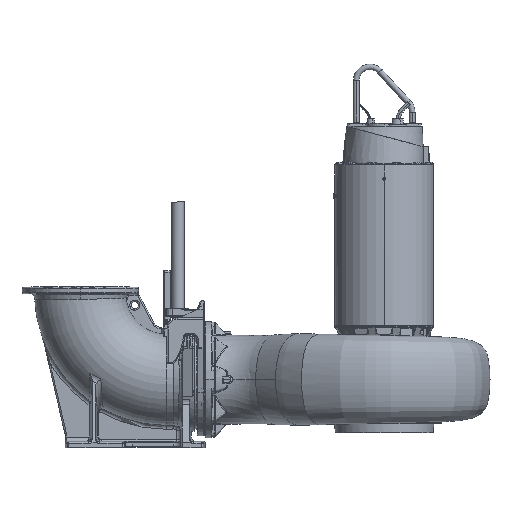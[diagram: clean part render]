
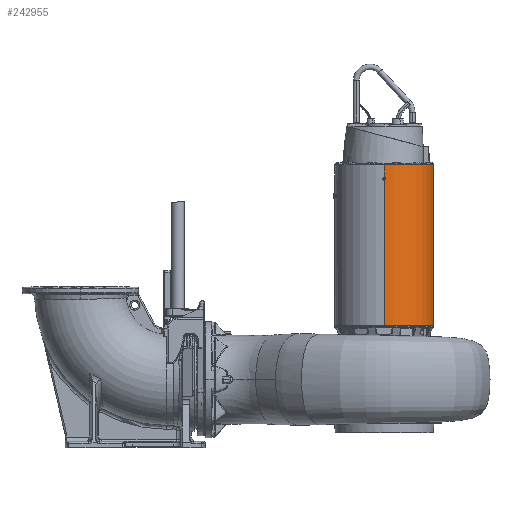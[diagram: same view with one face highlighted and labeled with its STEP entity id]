
A CAD part, top view. The second image highlights one B-rep face of the part: STEP entity #242955.
In plain terms, the highlighted cylindrical face has radius 344 mm (diameter 688 mm), a partial arc.
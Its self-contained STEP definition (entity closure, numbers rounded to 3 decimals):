
#7710 = CARTESIAN_POINT ( 'NONE',  ( 1250., 1780.97, -344. ) ) ;
#10647 = VERTEX_POINT ( 'NONE', #251376 ) ;
#14665 = CARTESIAN_POINT ( 'NONE',  ( 1250., 1780.97, 344. ) ) ;
#15895 = CARTESIAN_POINT ( 'NONE',  ( 1250., 2010.349, 344. ) ) ;
#16166 = EDGE_CURVE ( 'NONE', #222604, #160908, #173873, .T. ) ;
#21356 = VERTEX_POINT ( 'NONE', #25527 ) ;
#22986 = LINE ( 'NONE', #170835, #163941 ) ;
#25527 = CARTESIAN_POINT ( 'NONE',  ( 1259.5, 1775.485, -343.869 ) ) ;
#27781 = VERTEX_POINT ( 'NONE', #7710 ) ;
#30451 = ORIENTED_EDGE ( 'NONE', *, *, #16166, .T. ) ;
#32541 = EDGE_CURVE ( 'NONE', #21356, #251662, #71502, .T. ) ;
#37873 = CIRCLE ( 'NONE', #72201, 344. ) ;
#39600 = LINE ( 'NONE', #81959, #155315 ) ;
#40133 = CARTESIAN_POINT ( 'NONE',  ( 1250., 1759.03, -344. ) ) ;
#40653 = CARTESIAN_POINT ( 'NONE',  ( 1253.167, 1760.859, -344. ) ) ;
#41699 = CARTESIAN_POINT ( 'NONE',  ( 1250., 1759.03, 344. ) ) ;
#43067 = DIRECTION ( 'NONE',  ( 0., 1., 0. ) ) ;
#50644 = CARTESIAN_POINT ( 'NONE',  ( 1256.334, 1762.687, 343.956 ) ) ;
#52594 = DIRECTION ( 'NONE',  ( 0., 1., 0. ) ) ;
#53016 = EDGE_CURVE ( 'NONE', #167515, #211285, #22986, .T. ) ;
#55884 = CARTESIAN_POINT ( 'NONE',  ( 1250., 1870., 0. ) ) ;
#58387 = LINE ( 'NONE', #15895, #174013 ) ;
#61231 = CARTESIAN_POINT ( 'NONE',  ( 1259.5, 1775.485, 343.869 ) ) ;
#64223 = VECTOR ( 'NONE', #67505, 1000. ) ;
#67505 = DIRECTION ( 'NONE',  ( 0., -1., 0. ) ) ;
#70722 = DIRECTION ( 'NONE',  ( 0., 1., 0. ) ) ;
#71502 = LINE ( 'NONE', #297916, #64223 ) ;
#72201 = AXIS2_PLACEMENT_3D ( 'NONE', #55884, #217660, #79086 ) ;
#73320 = FACE_OUTER_BOUND ( 'NONE', #297145, .T. ) ;
#75465 = ORIENTED_EDGE ( 'NONE', *, *, #211613, .T. ) ;
#77681 = CARTESIAN_POINT ( 'NONE',  ( 1259.5, 2010.349, 343.869 ) ) ;
#78758 = EDGE_CURVE ( 'NONE', #219843, #160908, #58387, .T. ) ;
#79086 = DIRECTION ( 'NONE',  ( 0., 0., -1. ) ) ;
#81959 = CARTESIAN_POINT ( 'NONE',  ( 1250., 2010.349, 344. ) ) ;
#84518 = CARTESIAN_POINT ( 'NONE',  ( 1250., 1780.97, 344. ) ) ;
#88874 = EDGE_CURVE ( 'NONE', #298829, #261678, #39600, .T. ) ;
#90982 = CARTESIAN_POINT ( 'NONE',  ( 1256.334, 1777.313, -343.956 ) ) ;
#99165 = DIRECTION ( 'NONE',  ( 0., 1., 0. ) ) ;
#108473 = ORIENTED_EDGE ( 'NONE', *, *, #196461, .F. ) ;
#108857 = CARTESIAN_POINT ( 'NONE',  ( 1259.5, 1764.515, -343.869 ) ) ;
#112947 = VECTOR ( 'NONE', #239533, 1000. ) ;
#113819 = LINE ( 'NONE', #182546, #232830 ) ;
#116741 = EDGE_CURVE ( 'NONE', #27781, #10647, #113819, .T. ) ;
#117616 = EDGE_CURVE ( 'NONE', #202994, #222604, #290194, .T. ) ;
#120347 = CARTESIAN_POINT ( 'NONE',  ( 1250., 1759.03, 344. ) ) ;
#132681 = CARTESIAN_POINT ( 'NONE',  ( 1256.334, 1762.687, -343.956 ) ) ;
#135133 = DIRECTION ( 'NONE',  ( 0., 1., 0. ) ) ;
#141140 = EDGE_CURVE ( 'NONE', #261678, #10647, #37873, .T. ) ;
#151420 = DIRECTION ( 'NONE',  ( 0., 0., -1. ) ) ;
#153136 = CARTESIAN_POINT ( 'NONE',  ( 1253.167, 1779.141, 344. ) ) ;
#155315 = VECTOR ( 'NONE', #70722, 1000. ) ;
#160908 = VERTEX_POINT ( 'NONE', #41699 ) ;
#163941 = VECTOR ( 'NONE', #99165, 1000. ) ;
#164416 = AXIS2_PLACEMENT_3D ( 'NONE', #191059, #52594, #214354 ) ;
#165303 = ORIENTED_EDGE ( 'NONE', *, *, #78758, .F. ) ;
#167515 = VERTEX_POINT ( 'NONE', #237806 ) ;
#170835 = CARTESIAN_POINT ( 'NONE',  ( 1250., 2010.349, -344. ) ) ;
#171407 = ORIENTED_EDGE ( 'NONE', *, *, #32541, .F. ) ;
#173652 = DIRECTION ( 'NONE',  ( 0., 1., 0. ) ) ;
#173873 =( BOUNDED_CURVE ( )  B_SPLINE_CURVE ( 3, ( #281170, #50644, #258963, #120347 ),
 .UNSPECIFIED., .F., .F. ) 
 B_SPLINE_CURVE_WITH_KNOTS ( ( 4, 4 ),
 ( 1.543, 1.571 ),
 .UNSPECIFIED. ) 
 CURVE ( )  GEOMETRIC_REPRESENTATION_ITEM ( )  RATIONAL_B_SPLINE_CURVE ( ( 1., 1., 1., 1. ) ) 
 REPRESENTATION_ITEM ( '' )  );
#174013 = VECTOR ( 'NONE', #135133, 1000. ) ;
#176971 = ORIENTED_EDGE ( 'NONE', *, *, #141140, .F. ) ;
#182546 = CARTESIAN_POINT ( 'NONE',  ( 1250., 2010.349, -344. ) ) ;
#191059 = CARTESIAN_POINT ( 'NONE',  ( 1250., 745., 0. ) ) ;
#193328 = ORIENTED_EDGE ( 'NONE', *, *, #222879, .T. ) ;
#195683 = AXIS2_PLACEMENT_3D ( 'NONE', #195992, #173652, #151420 ) ;
#195992 = CARTESIAN_POINT ( 'NONE',  ( 1250., 2010.349, 0. ) ) ;
#196461 = EDGE_CURVE ( 'NONE', #27781, #21356, #222735, .T. ) ;
#199727 = CARTESIAN_POINT ( 'NONE',  ( 1256.334, 1777.313, 343.956 ) ) ;
#200313 = CARTESIAN_POINT ( 'NONE',  ( 1259.5, 1764.515, 343.869 ) ) ;
#201215 = CIRCLE ( 'NONE', #164416, 344. ) ;
#202457 = CARTESIAN_POINT ( 'NONE',  ( 1250., 1759.03, -344. ) ) ;
#202994 = VERTEX_POINT ( 'NONE', #225197 ) ;
#206282 = CARTESIAN_POINT ( 'NONE',  ( 1250., 1780.97, -344. ) ) ;
#209850 = ORIENTED_EDGE ( 'NONE', *, *, #117616, .T. ) ;
#211285 = VERTEX_POINT ( 'NONE', #40133 ) ;
#211613 = EDGE_CURVE ( 'NONE', #298829, #202994, #233721, .T. ) ;
#214354 = DIRECTION ( 'NONE',  ( 0., 0., -1. ) ) ;
#215120 = CARTESIAN_POINT ( 'NONE',  ( 1250., 745., 344. ) ) ;
#217660 = DIRECTION ( 'NONE',  ( 0., 1., 0. ) ) ;
#219843 = VERTEX_POINT ( 'NONE', #215120 ) ;
#222604 = VERTEX_POINT ( 'NONE', #200313 ) ;
#222735 =( BOUNDED_CURVE ( )  B_SPLINE_CURVE ( 3, ( #206282, #297168, #90982, #252821 ),
 .UNSPECIFIED., .F., .F. ) 
 B_SPLINE_CURVE_WITH_KNOTS ( ( 4, 4 ),
 ( 1.571, 1.598 ),
 .UNSPECIFIED. ) 
 CURVE ( )  GEOMETRIC_REPRESENTATION_ITEM ( )  RATIONAL_B_SPLINE_CURVE ( ( 1., 1., 1., 1. ) ) 
 REPRESENTATION_ITEM ( '' )  );
#222879 = EDGE_CURVE ( 'NONE', #219843, #167515, #201215, .T. ) ;
#225197 = CARTESIAN_POINT ( 'NONE',  ( 1259.5, 1775.485, 343.869 ) ) ;
#228853 = CYLINDRICAL_SURFACE ( 'NONE', #195683, 344. ) ;
#232117 = ORIENTED_EDGE ( 'NONE', *, *, #282377, .F. ) ;
#232830 = VECTOR ( 'NONE', #43067, 1000. ) ;
#233721 =( BOUNDED_CURVE ( )  B_SPLINE_CURVE ( 3, ( #14665, #153136, #199727, #61231 ),
 .UNSPECIFIED., .F., .F. ) 
 B_SPLINE_CURVE_WITH_KNOTS ( ( 4, 4 ),
 ( 1.571, 1.598 ),
 .UNSPECIFIED. ) 
 CURVE ( )  GEOMETRIC_REPRESENTATION_ITEM ( )  RATIONAL_B_SPLINE_CURVE ( ( 1., 1., 1., 1. ) ) 
 REPRESENTATION_ITEM ( '' )  );
#237806 = CARTESIAN_POINT ( 'NONE',  ( 1250., 745., -344. ) ) ;
#239182 = ORIENTED_EDGE ( 'NONE', *, *, #53016, .T. ) ;
#239533 = DIRECTION ( 'NONE',  ( 0., -1., 0. ) ) ;
#242955 = ADVANCED_FACE ( 'NONE', ( #73320 ), #228853, .T. ) ;
#251376 = CARTESIAN_POINT ( 'NONE',  ( 1250., 1870., -344. ) ) ;
#251662 = VERTEX_POINT ( 'NONE', #108857 ) ;
#252821 = CARTESIAN_POINT ( 'NONE',  ( 1259.5, 1775.485, -343.869 ) ) ;
#254266 = CARTESIAN_POINT ( 'NONE',  ( 1250., 1870., 344. ) ) ;
#258963 = CARTESIAN_POINT ( 'NONE',  ( 1253.167, 1760.859, 344. ) ) ;
#261678 = VERTEX_POINT ( 'NONE', #254266 ) ;
#271264 = CARTESIAN_POINT ( 'NONE',  ( 1259.5, 1764.515, -343.869 ) ) ;
#280056 = ORIENTED_EDGE ( 'NONE', *, *, #116741, .T. ) ;
#281170 = CARTESIAN_POINT ( 'NONE',  ( 1259.5, 1764.515, 343.869 ) ) ;
#282377 = EDGE_CURVE ( 'NONE', #251662, #211285, #295492, .T. ) ;
#290194 = LINE ( 'NONE', #77681, #112947 ) ;
#294325 = ORIENTED_EDGE ( 'NONE', *, *, #88874, .F. ) ;
#295492 =( BOUNDED_CURVE ( )  B_SPLINE_CURVE ( 3, ( #271264, #132681, #40653, #202457 ),
 .UNSPECIFIED., .F., .F. ) 
 B_SPLINE_CURVE_WITH_KNOTS ( ( 4, 4 ),
 ( 1.543, 1.571 ),
 .UNSPECIFIED. ) 
 CURVE ( )  GEOMETRIC_REPRESENTATION_ITEM ( )  RATIONAL_B_SPLINE_CURVE ( ( 1., 1., 1., 1. ) ) 
 REPRESENTATION_ITEM ( '' )  );
#297145 = EDGE_LOOP ( 'NONE', ( #165303, #193328, #239182, #232117, #171407, #108473, #280056, #176971, #294325, #75465, #209850, #30451 ) ) ;
#297168 = CARTESIAN_POINT ( 'NONE',  ( 1253.167, 1779.141, -344. ) ) ;
#297916 = CARTESIAN_POINT ( 'NONE',  ( 1259.5, 2010.349, -343.869 ) ) ;
#298829 = VERTEX_POINT ( 'NONE', #84518 ) ;
